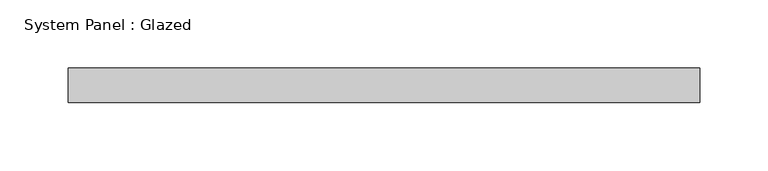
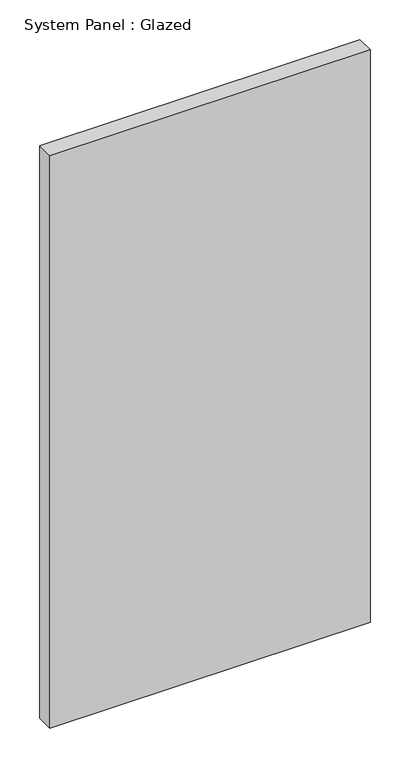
"""IFC4 building model written with IfcOpenShell, lengths in millimetres: plate geometry, System Panel : Glazed."""

from ifc_helpers import new_model, si_unit, origin, origin_with_axes, place, context, project, spatial, polyline, outline, extrude, source, transform, mapped, element, save


def system_panel_glazed_625fda9a(model_context):
    return source(origin(), model_context, "Body", "SweptSolid", [
        extrude(outline(polyline([(231.775, 19.05), (-231.775, 19.05), (-231.775, 44.45), (231.775, 44.45), (231.775, 19.05)])), origin_with_axes(), (0.0, 0.0, 1.0), 876.3),
    ])


if __name__ == "__main__":
    model = new_model("IFC4")
    model_context = context("Model", 3, world=origin())
    ifc_project = project(units=[si_unit("LENGTHUNIT", "METRE", prefix="MILLI")], contexts=[model_context])
    site = spatial("IfcSite", under=ifc_project)
    building = spatial("IfcBuilding", under=site)
    placement = place(None, origin())
    system_panel_glazed_shape = system_panel_glazed_625fda9a(model_context)
    element("IfcPlate", 1, ObjectType="System Panel : Glazed", at=placement, inside=building, context=model_context, shape_type="MappedRepresentation", body=[
        mapped(system_panel_glazed_shape, transform((0.0, 0.0, 0.0), x_axis=(1.0, 0.0, 0.0), y_axis=(0.0, 1.0, 0.0), z_axis=(0.0, 0.0, 1.0))),
    ])
    save(model, "model.ifc")
